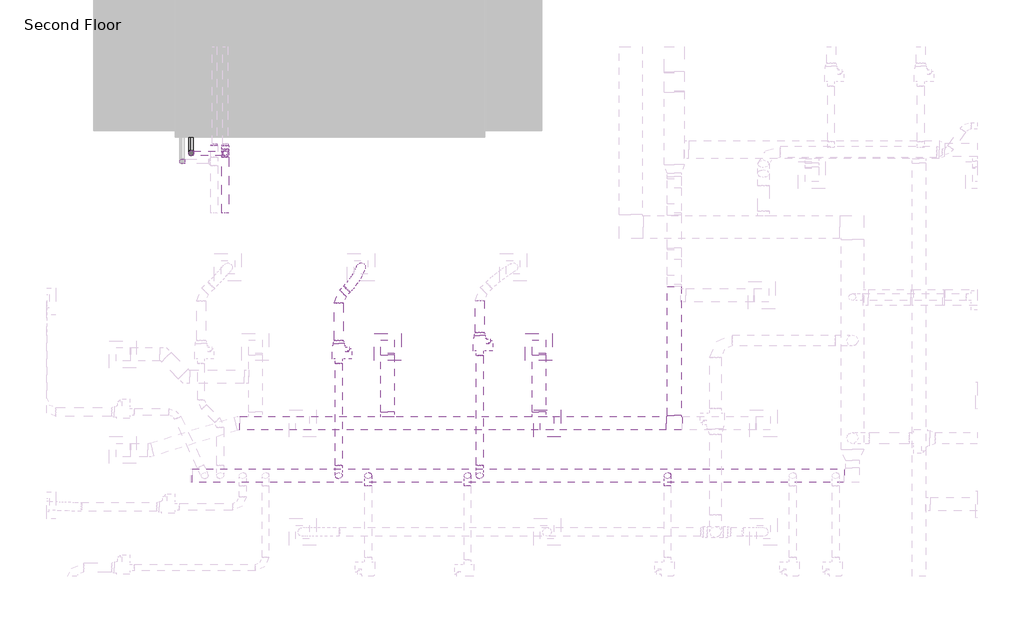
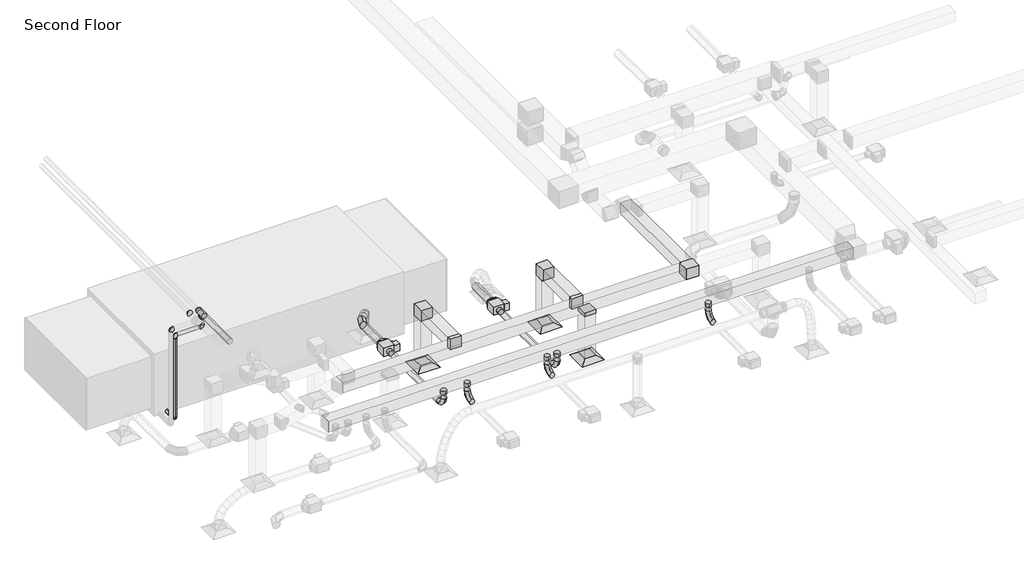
# One storey, part 6 of 44: 19 duct fittings, 19 duct segments, 8 pipe fittings, 6 pipe segments, 3 air terminals, 2 proxies.
"""IFC4 building model written with IfcOpenShell, lengths in millimetres."""

from ifc_helpers import new_model, si_unit, point, frame, frame_2d, origin, place, context, project, spatial, polyline, circle_curve, ellipse_curve, trimmed, segment, composite_curve, outline, extrude, transform, mapped, element, save
from ifc_brep_helpers import plane_surface, cylinder_surface, advanced_brep
from components import m_exhaust_grill_er_600_x_600_face_300_x_300_connection_ff221211, m_vav_unit_single_duct_150_mm_ffdab17b, m_rectangular_elbow_mitered_standard_8eee5933, m_rectangular_takeoff_standard_c00386d1, m_rectangular_tee_standard_bf2a2b7f, m_rectangular_to_round_transition_angle_45_degree_1b7ae117, m_round_elbow_1_5_d_f3829448, m_round_elbow_1_5_d_a5a9c0f7, m_round_elbow_1_5_d_91200b3d, m_round_elbow_1_5_d_fb64139c, m_round_elbow_1_5_d_2256b737, m_round_takeoff_standard_2721f8a4, m_elbow_generic_standard_09f08a26, m_tee_generic_standard_a561f7f4, m_transition_generic_standard_df45198b

model = new_model("IFC4")

# Units and contexts
model_context = context("Model", 3, world=origin())
ifc_project = project(units=[si_unit("LENGTHUNIT", "METRE", prefix="MILLI")], contexts=[model_context])

# Site, building, storey
site = spatial("IfcSite", under=ifc_project)
building = spatial("IfcBuilding", under=site)
storey = spatial("IfcBuildingStorey", under=building, Name="Second Floor", Elevation=4570.0)

# Air terminals
placement = place(None, origin())
m_exhaust_grill_er_600_x_600_face_300_x_300_connection_shape = m_exhaust_grill_er_600_x_600_face_300_x_300_connection_ff221211(model_context)
element("IfcAirTerminal", 1, ObjectType="M_Return Register : RR-600 x 600 Face 300 x 300 Connection", at=placement, inside=storey, context=model_context, shape_type="MappedRepresentation", body=[
    mapped(m_exhaust_grill_er_600_x_600_face_300_x_300_connection_shape, transform((-38342.8263696, 18995.9490649, 7250.0), x_axis=(1.0, 0.0, 0.0), y_axis=(0.0, 1.0, 0.0), z_axis=(0.0, 0.0, 1.0))),
])
element("IfcAirTerminal", 2, ObjectType="M_Return Register : RR-600 x 600 Face 300 x 300 Connection", at=placement, inside=storey, context=model_context, shape_type="MappedRepresentation", body=[
    mapped(m_exhaust_grill_er_600_x_600_face_300_x_300_connection_shape, transform((-34999.1445602, 18995.9490649, 7250.0), x_axis=(1.0, 0.0, 0.0), y_axis=(0.0, 1.0, 0.0), z_axis=(0.0, 0.0, 1.0))),
])
element("IfcAirTerminal", 3, ObjectType="M_Return Register : RR-600 x 600 Face 300 x 300 Connection", at=placement, inside=storey, context=model_context, shape_type="MappedRepresentation", body=[
    mapped(m_exhaust_grill_er_600_x_600_face_300_x_300_connection_shape, transform((-34817.740769, 17305.6323311, 7250.0), x_axis=(1.0, 0.0, 0.0), y_axis=(0.0, 1.0, 0.0), z_axis=(0.0, 0.0, 1.0))),
])

# Proxies
m_vav_unit_single_duct_150_mm_shape = m_vav_unit_single_duct_150_mm_ffdab17b(model_context)
element("IfcBuildingElementProxy", 4, Name="M_VAV Unit - Single Duct : 150 mm", ObjectType="M_VAV Unit - Single Duct : 150 mm", at=placement, inside=storey, context=model_context, shape_type="MappedRepresentation", body=[
    mapped(m_vav_unit_single_duct_150_mm_shape, transform((-39423.0464732, 18731.5745441, 8070.0), x_axis=(0.0, 1.0, 0.0), y_axis=(-1.0, 0.0, 0.0), z_axis=(0.0, 0.0, 1.0))),
])
element("IfcBuildingElementProxy", 5, Name="M_VAV Unit - Single Duct : 150 mm", ObjectType="M_VAV Unit - Single Duct : 150 mm", at=placement, inside=storey, context=model_context, shape_type="MappedRepresentation", body=[
    mapped(m_vav_unit_single_duct_150_mm_shape, transform((-36309.0180147, 18905.4342264, 8070.0), x_axis=(0.0, 1.0, 0.0), y_axis=(-1.0, 0.0, 0.0), z_axis=(0.0, 0.0, 1.0))),
])

# Duct fittings
m_rectangular_elbow_mitered_standard_shape = m_rectangular_elbow_mitered_standard_8eee5933(model_context)
element("IfcDuctFitting", 6, ObjectType="M_Rectangular Elbow - Mitered : Standard", at=placement, inside=storey, context=model_context, shape_type="MappedRepresentation", body=[
    mapped(m_rectangular_elbow_mitered_standard_shape, transform((-38342.8263696, 18995.9490649, 8820.0), x_axis=(0.0, 0.0, 1.0), y_axis=(0.0, -1.0, 0.0), z_axis=(1.0, 0.0, 0.0))),
])
element("IfcDuctFitting", 7, ObjectType="M_Rectangular Elbow - Mitered : Standard", at=placement, inside=storey, context=model_context, shape_type="MappedRepresentation", body=[
    mapped(m_rectangular_elbow_mitered_standard_shape, transform((-34999.1445602, 18995.9490649, 8820.0), x_axis=(0.0, 0.0, 1.0), y_axis=(0.0, -1.0, 0.0), z_axis=(1.0, 0.0, 0.0))),
])
m_rectangular_takeoff_standard_shape = m_rectangular_takeoff_standard_c00386d1(model_context)
element("IfcDuctFitting", 8, ObjectType="M_Rectangular Takeoff : Standard", at=placement, inside=storey, context=model_context, shape_type="MappedRepresentation", body=[
    mapped(m_rectangular_takeoff_standard_shape, transform((-38342.8263696, 17455.6323311, 8820.0), x_axis=(0.0, 1.0, 0.0), y_axis=(1.0, 0.0, 0.0), z_axis=(0.0, 0.0, -1.0))),
])
element("IfcDuctFitting", 9, ObjectType="M_Rectangular Takeoff : Standard", at=placement, inside=storey, context=model_context, shape_type="MappedRepresentation", body=[
    mapped(m_rectangular_takeoff_standard_shape, transform((-34999.1445602, 17455.6323311, 8820.0), x_axis=(0.0, 1.0, 0.0), y_axis=(1.0, 0.0, 0.0), z_axis=(0.0, 0.0, -1.0))),
])
element("IfcDuctFitting", 10, ObjectType="M_Rectangular Takeoff : Standard", at=placement, inside=storey, context=model_context, shape_type="MappedRepresentation", body=[
    mapped(m_rectangular_takeoff_standard_shape, transform((-34817.740769, 17305.6323311, 8670.0), x_axis=(0.0, 0.0, -1.0), y_axis=(1.0, 0.0, 0.0), z_axis=(0.0, -1.0, 0.0))),
])
m_rectangular_tee_standard_shape = m_rectangular_tee_standard_bf2a2b7f(model_context)
element("IfcDuctFitting", 11, ObjectType="M_Rectangular Tee : Standard", at=placement, inside=storey, context=model_context, shape_type="MappedRepresentation", body=[
    mapped(m_rectangular_tee_standard_shape, transform((-32006.4608066, 17305.6323311, 8820.0), x_axis=(-1.0, 0.0, 0.0), y_axis=(0.0, -1.0, 0.0), z_axis=(0.0, 0.0, 1.0))),
])
m_rectangular_to_round_transition_angle_45_degree_shape = m_rectangular_to_round_transition_angle_45_degree_1b7ae117(model_context)
element("IfcDuctFitting", 12, ObjectType="M_Rectangular to Round Transition - Angle : 45 Degree", at=placement, inside=storey, context=model_context, shape_type="MappedRepresentation", body=[
    mapped(m_rectangular_to_round_transition_angle_45_degree_shape, transform((-39423.0464732, 19074.3745441, 8189.05), x_axis=(0.0, 1.0, 0.0), y_axis=(-1.0, 0.0, 0.0), z_axis=(0.0, 0.0, 1.0))),
])
element("IfcDuctFitting", 13, ObjectType="M_Rectangular to Round Transition - Angle : 45 Degree", at=placement, inside=storey, context=model_context, shape_type="MappedRepresentation", body=[
    mapped(m_rectangular_to_round_transition_angle_45_degree_shape, transform((-36309.0180147, 19248.2342264, 8189.05), x_axis=(0.0, 1.0, 0.0), y_axis=(-1.0, 0.0, 0.0), z_axis=(0.0, 0.0, 1.0))),
])
m_round_elbow_1_5_d_shape = m_round_elbow_1_5_d_f3829448(model_context)
element("IfcDuctFitting", 14, ObjectType="M_Round Elbow : 1.5 D", at=placement, inside=storey, context=model_context, shape_type="MappedRepresentation", body=[
    mapped(m_round_elbow_1_5_d_shape, transform((-39423.0464732, 20094.3745428, 8189.1), x_axis=(-0.7071067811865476, -0.7071067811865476, 0.0), y_axis=(0.7071067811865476, -0.7071067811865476, 0.0), z_axis=(0.0, 0.0, 1.0))),
])
m_round_elbow_1_5_d_2_shape = m_round_elbow_1_5_d_a5a9c0f7(model_context)
element("IfcDuctFitting", 15, ObjectType="M_Round Elbow : 1.5 D", at=placement, inside=storey, context=model_context, shape_type="MappedRepresentation", body=[
    mapped(m_round_elbow_1_5_d_2_shape, transform((-39423.8964732, 16146.5905517, 8179.4912584), x_axis=(0.0, 0.0, -1.0), y_axis=(0.0, 1.0, 0.0), z_axis=(1.0, 0.0, 0.0))),
])
m_round_elbow_1_5_d_3_shape = m_round_elbow_1_5_d_91200b3d(model_context)
element("IfcDuctFitting", 16, ObjectType="M_Round Elbow : 1.5 D", at=placement, inside=storey, context=model_context, shape_type="MappedRepresentation", body=[
    mapped(m_round_elbow_1_5_d_3_shape, transform((-36309.8680147, 16146.5905517, 8179.4976873), x_axis=(0.0, 0.0, -1.0), y_axis=(0.0, 1.0, 0.0), z_axis=(1.0, 0.0, 0.0))),
])
m_round_elbow_1_5_d_4_shape = m_round_elbow_1_5_d_fb64139c(model_context)
element("IfcDuctFitting", 17, ObjectType="M_Round Elbow : 1.5 D", at=placement, inside=storey, context=model_context, shape_type="MappedRepresentation", body=[
    mapped(m_round_elbow_1_5_d_4_shape, transform((-38774.2771337, 16146.5905517, 8179.5), x_axis=(0.0, 0.0, -1.0), y_axis=(0.0, -1.0, 0.0), z_axis=(-1.0, 0.0, 0.0))),
])
element("IfcDuctFitting", 18, ObjectType="M_Round Elbow : 1.5 D", at=placement, inside=storey, context=model_context, shape_type="MappedRepresentation", body=[
    mapped(m_round_elbow_1_5_d_4_shape, transform((-32154.7486641, 16146.5905517, 8179.5), x_axis=(0.0, 0.0, -1.0), y_axis=(0.0, -1.0, 0.0), z_axis=(-1.0, 0.0, 0.0))),
])
m_round_elbow_1_5_d_5_shape = m_round_elbow_1_5_d_2256b737(model_context)
element("IfcDuctFitting", 19, ObjectType="M_Round Elbow : 1.5 D", at=placement, inside=storey, context=model_context, shape_type="MappedRepresentation", body=[
    mapped(m_round_elbow_1_5_d_5_shape, transform((-36577.8314374, 16146.5905517, 8179.5), x_axis=(0.0, 0.0, -1.0), y_axis=(0.0, -1.0, 0.0), z_axis=(-1.0, 0.0, 0.0))),
])
m_round_takeoff_standard_shape = m_round_takeoff_standard_2721f8a4(model_context)
element("IfcDuctFitting", 20, ObjectType="M_Round Takeoff : Standard", at=placement, inside=storey, context=model_context, shape_type="MappedRepresentation", body=[
    mapped(m_round_takeoff_standard_shape, transform((-39423.8964732, 16146.5905517, 8620.0), x_axis=(0.0, 0.0, -1.0), y_axis=(-1.0, 0.0, 0.0), z_axis=(0.0, 1.0, 0.0))),
])
element("IfcDuctFitting", 21, ObjectType="M_Round Takeoff : Standard", at=placement, inside=storey, context=model_context, shape_type="MappedRepresentation", body=[
    mapped(m_round_takeoff_standard_shape, transform((-36309.8680147, 16146.5905517, 8620.0), x_axis=(0.0, 0.0, -1.0), y_axis=(-1.0, 0.0, 0.0), z_axis=(0.0, 1.0, 0.0))),
])
element("IfcDuctFitting", 22, ObjectType="M_Round Takeoff : Standard", at=placement, inside=storey, context=model_context, shape_type="MappedRepresentation", body=[
    mapped(m_round_takeoff_standard_shape, transform((-38774.2771337, 16146.5905517, 8620.0), x_axis=(0.0, 0.0, -1.0), y_axis=(1.0, 0.0, 0.0), z_axis=(0.0, -1.0, 0.0))),
])
element("IfcDuctFitting", 23, ObjectType="M_Round Takeoff : Standard", at=placement, inside=storey, context=model_context, shape_type="MappedRepresentation", body=[
    mapped(m_round_takeoff_standard_shape, transform((-36577.8314374, 16146.5905517, 8620.0), x_axis=(0.0, 0.0, -1.0), y_axis=(1.0, 0.0, 0.0), z_axis=(0.0, -1.0, 0.0))),
])
element("IfcDuctFitting", 24, ObjectType="M_Round Takeoff : Standard", at=placement, inside=storey, context=model_context, shape_type="MappedRepresentation", body=[
    mapped(m_round_takeoff_standard_shape, transform((-32154.7486641, 16146.5905517, 8620.0), x_axis=(0.0, 0.0, -1.0), y_axis=(1.0, 0.0, 0.0), z_axis=(0.0, -1.0, 0.0))),
])

# Duct segments
element("IfcDuctSegment", 25, ObjectType="Flex - Round", at=placement, inside=storey, context=model_context, shape_type="AdvancedBrep", body=[
    advanced_brep(
    [(-39313.180738, 20345.5027608, 8189.1), (-39250.0891087, 20266.247154, 8090.4187196), (-39165.2166891, 20210.9418444, 8189.1), (-39228.3083183, 20290.1974511, 8287.7812804), (-39240.7687403, 20425.127459, 8171.4460655), (-39184.7412807, 20338.1040458, 8074.4870189), (-39087.5666118, 20296.3263686, 8170.1690297), (-39143.5940714, 20383.3497818, 8267.1280764), (-39015.9394262, 20814.5089739, 7474.9919754), (-38876.8929832, 20839.2093302, 7482.4738929), (-38851.5905014, 20700.6640201, 7469.6293808), (-38990.6369444, 20675.9636639, 7462.1474633), (-39180.6727259, 20503.8239667, 8123.4657217), (-39135.2934424, 20402.8566294, 8035.0081231), (-39020.3460816, 20384.3525219, 8116.5005097), (-39065.7253651, 20485.3198593, 8204.9581082), (-39129.6921387, 20581.7480035, 8048.720388), (-39091.3150838, 20470.077731, 7970.5291269), (-38965.9119803, 20467.5552692, 8036.6917964), (-39004.2890353, 20579.2255417, 8114.8830575), (-39088.1907968, 20654.6694084, 7952.6373319), (-39054.5409307, 20534.6930611, 7885.3903615), (-38923.0568159, 20542.8554559, 7937.4743982), (-38956.706682, 20662.8318032, 8004.7213685), (-39056.2397157, 20718.4336319, 7841.1118635), (-39026.012089, 20591.62758, 7785.8102436), (-38890.8658987, 20607.0983159, 7825.1117807), (-38921.0935254, 20733.9043677, 7880.4134006), (-39033.6862466, 20769.052063, 7720.0522305), (-39006.0765406, 20636.3704168, 7678.8027509), (-38868.6482036, 20656.9631445, 7705.8544722), (-38896.2579096, 20789.6447908, 7747.1039518), (-39020.2854991, 20802.5744126, 7595.1608889), (-38994.6064674, 20665.06313, 7571.9047714), (-38855.8049468, 20689.0909155, 7586.1587925), (-38881.4839785, 20826.6021982, 7609.4149101)],
    [
        (0, 1, circle_curve(frame((-39239.1987135, 20278.2223026, 8189.1), z_axis=(-0.6639321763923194, -0.7300640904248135, 0.16186565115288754), x_axis=(-0.7398202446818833, 0.6728045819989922, 0.0)), 100.0)),
        (1, 2, circle_curve(frame((-39239.1987135, 20278.2223026, 8189.1), z_axis=(-0.6639321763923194, -0.7300640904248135, 0.16186565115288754), x_axis=(-0.7398202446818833, 0.6728045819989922, 0.0)), 100.0)),
        (2, 3, circle_curve(frame((-39239.1987135, 20278.2223026, 8189.1), z_axis=(-0.6639321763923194, -0.7300640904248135, 0.16186565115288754), x_axis=(-0.7398202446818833, 0.6728045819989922, 0.0)), 100.0)),
        (3, 0, circle_curve(frame((-39239.1987135, 20278.2223026, 8189.1), z_axis=(-0.6639321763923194, -0.7300640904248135, 0.16186565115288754), x_axis=(-0.7398202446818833, 0.6728045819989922, 0.0)), 100.0)),
        (0, 4),
        (4, 5, ellipse_curve(frame((-39164.1676761, 20360.7269138, 8170.8075476), z_axis=(-0.6119201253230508, -0.7308446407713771, 0.302357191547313), x_axis=(-0.3941252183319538, -0.04967413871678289, -0.9177133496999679)), 101.1349227, 100.0)),
        (5, 1),
        (5, 6, ellipse_curve(frame((-39164.1676761, 20360.7269138, 8170.8075476), z_axis=(-0.6119201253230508, -0.7308446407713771, 0.302357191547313), x_axis=(-0.3941252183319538, -0.04967413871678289, -0.9177133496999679)), 101.1349227, 100.0)),
        (6, 2),
        (6, 7, ellipse_curve(frame((-39164.1676761, 20360.7269138, 8170.8075476), z_axis=(-0.6119201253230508, -0.7308446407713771, 0.302357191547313), x_axis=(-0.3941252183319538, -0.04967413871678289, -0.9177133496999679)), 101.1349227, 100.0)),
        (7, 3),
        (7, 4, ellipse_curve(frame((-39164.1676761, 20360.7269138, 8170.8075476), z_axis=(-0.6119201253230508, -0.7308446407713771, 0.302357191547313), x_axis=(-0.3941252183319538, -0.04967413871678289, -0.9177133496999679)), 101.1349227, 100.0)),
        (8, 9, circle_curve(frame((-38933.7649638, 20757.586497, 7472.3106781), z_axis=(0.03596602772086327, 0.09876473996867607, -0.9944606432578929), x_axis=(-0.8217446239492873, 0.569224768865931, 0.026812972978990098)), 100.0)),
        (9, 10, circle_curve(frame((-38933.7649638, 20757.586497, 7472.3106781), z_axis=(0.03596602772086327, 0.09876473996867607, -0.9944606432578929), x_axis=(-0.8217446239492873, 0.569224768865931, 0.026812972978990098)), 100.0)),
        (10, 11, circle_curve(frame((-38933.7649638, 20757.586497, 7472.3106781), z_axis=(0.03596602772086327, 0.09876473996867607, -0.9944606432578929), x_axis=(-0.8217446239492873, 0.569224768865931, 0.026812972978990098)), 100.0)),
        (11, 8, circle_curve(frame((-38933.7649638, 20757.586497, 7472.3106781), z_axis=(0.03596602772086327, 0.09876473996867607, -0.9944606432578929), x_axis=(-0.8217446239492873, 0.569224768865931, 0.026812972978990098)), 100.0)),
        (4, 12),
        (12, 13, ellipse_curve(frame((-39100.5094038, 20444.0882443, 8119.9831157), z_axis=(-0.48989161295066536, -0.6885883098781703, 0.5346516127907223), x_axis=(-0.512108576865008, -0.26901508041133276, -0.8157056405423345)), 100.6844977, 100.0)),
        (13, 5),
        (13, 14, ellipse_curve(frame((-39100.5094038, 20444.0882443, 8119.9831157), z_axis=(-0.48989161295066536, -0.6885883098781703, 0.5346516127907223), x_axis=(-0.512108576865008, -0.26901508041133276, -0.8157056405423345)), 100.6844977, 100.0)),
        (14, 6),
        (14, 15, ellipse_curve(frame((-39100.5094038, 20444.0882443, 8119.9831157), z_axis=(-0.48989161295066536, -0.6885883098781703, 0.5346516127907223), x_axis=(-0.512108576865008, -0.26901508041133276, -0.8157056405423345)), 100.6844977, 100.0)),
        (15, 7),
        (15, 12, ellipse_curve(frame((-39100.5094038, 20444.0882443, 8119.9831157), z_axis=(-0.48989161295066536, -0.6885883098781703, 0.5346516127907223), x_axis=(-0.512108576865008, -0.26901508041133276, -0.8157056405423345)), 100.6844977, 100.0)),
        (12, 16),
        (16, 17, ellipse_curve(frame((-39047.8020595, 20524.6516364, 8042.7060922), z_axis=(-0.3777108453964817, -0.614671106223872, 0.6924694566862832), x_axis=(-0.5587267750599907, -0.44506026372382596, -0.699818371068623)), 100.4159385, 100.0)),
        (17, 13),
        (17, 18, ellipse_curve(frame((-39047.8020595, 20524.6516364, 8042.7060922), z_axis=(-0.3777108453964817, -0.614671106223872, 0.6924694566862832), x_axis=(-0.5587267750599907, -0.44506026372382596, -0.699818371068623)), 100.4159385, 100.0)),
        (18, 14),
        (18, 19, ellipse_curve(frame((-39047.8020595, 20524.6516364, 8042.7060922), z_axis=(-0.3777108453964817, -0.614671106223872, 0.6924694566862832), x_axis=(-0.5587267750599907, -0.44506026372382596, -0.699818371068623)), 100.4159385, 100.0)),
        (19, 15),
        (19, 16, ellipse_curve(frame((-39047.8020595, 20524.6516364, 8042.7060922), z_axis=(-0.3777108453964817, -0.614671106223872, 0.6924694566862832), x_axis=(-0.5587267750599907, -0.44506026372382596, -0.699818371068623)), 100.4159385, 100.0)),
        (16, 20),
        (20, 21, ellipse_curve(frame((-39005.6238063, 20598.7624321, 7945.055865), z_axis=(-0.28417322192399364, -0.5281938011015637, 0.8001605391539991), x_axis=(-0.5524411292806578, -0.5918964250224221, -0.5869134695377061)), 100.2901701, 100.0)),
        (21, 17),
        (21, 22, ellipse_curve(frame((-39005.6238063, 20598.7624321, 7945.055865), z_axis=(-0.28417322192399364, -0.5281938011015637, 0.8001605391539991), x_axis=(-0.5524411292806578, -0.5918964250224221, -0.5869134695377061)), 100.2901701, 100.0)),
        (22, 18),
        (22, 23, ellipse_curve(frame((-39005.6238063, 20598.7624321, 7945.055865), z_axis=(-0.28417322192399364, -0.5281938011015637, 0.8001605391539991), x_axis=(-0.5524411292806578, -0.5918964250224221, -0.5869134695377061)), 100.2901701, 100.0)),
        (23, 19),
        (23, 20, ellipse_curve(frame((-39005.6238063, 20598.7624321, 7945.055865), z_axis=(-0.28417322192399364, -0.5281938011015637, 0.8001605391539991), x_axis=(-0.5524411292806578, -0.5918964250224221, -0.5869134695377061)), 100.2901701, 100.0)),
        (20, 24),
        (24, 25, ellipse_curve(frame((-38973.5528072, 20662.7659739, 7833.1118221), z_axis=(-0.2058906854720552, -0.43200893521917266, 0.8780531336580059), x_axis=(-0.5096032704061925, -0.7186741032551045, -0.4730877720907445)), 100.2501885, 100.0)),
        (25, 21),
        (25, 26, ellipse_curve(frame((-38973.5528072, 20662.7659739, 7833.1118221), z_axis=(-0.2058906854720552, -0.43200893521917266, 0.8780531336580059), x_axis=(-0.5096032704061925, -0.7186741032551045, -0.4730877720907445)), 100.2501885, 100.0)),
        (26, 22),
        (26, 27, ellipse_curve(frame((-38973.5528072, 20662.7659739, 7833.1118221), z_axis=(-0.2058906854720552, -0.43200893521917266, 0.8780531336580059), x_axis=(-0.5096032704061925, -0.7186741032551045, -0.4730877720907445)), 100.2501885, 100.0)),
        (27, 23),
        (27, 24, ellipse_curve(frame((-38973.5528072, 20662.7659739, 7833.1118221), z_axis=(-0.2058906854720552, -0.43200893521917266, 0.8780531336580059), x_axis=(-0.5096032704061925, -0.7186741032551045, -0.4730877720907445)), 100.2501885, 100.0)),
        (24, 28),
        (28, 29, ellipse_curve(frame((-38951.1672251, 20713.0076038, 7712.9533514), z_axis=(-0.1366140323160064, -0.31990325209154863, 0.9375492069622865), x_axis=(-0.44705025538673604, -0.8246610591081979, -0.3465259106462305)), 100.2762149, 100.0)),
        (29, 25),
        (29, 30, ellipse_curve(frame((-38951.1672251, 20713.0076038, 7712.9533514), z_axis=(-0.1366140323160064, -0.31990325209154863, 0.9375492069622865), x_axis=(-0.44705025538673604, -0.8246610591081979, -0.3465259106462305)), 100.2762149, 100.0)),
        (30, 26),
        (30, 31, ellipse_curve(frame((-38951.1672251, 20713.0076038, 7712.9533514), z_axis=(-0.1366140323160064, -0.31990325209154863, 0.9375492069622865), x_axis=(-0.44705025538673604, -0.8246610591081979, -0.3465259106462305)), 100.2762149, 100.0)),
        (31, 27),
        (31, 28, ellipse_curve(frame((-38951.1672251, 20713.0076038, 7712.9533514), z_axis=(-0.1366140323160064, -0.31990325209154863, 0.9375492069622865), x_axis=(-0.44705025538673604, -0.8246610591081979, -0.3465259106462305)), 100.2762149, 100.0)),
        (28, 32),
        (32, 33, ellipse_curve(frame((-38938.045223, 20745.8326641, 7590.6598407), z_axis=(-0.06979314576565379, -0.17900399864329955, 0.981369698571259), x_axis=(-0.38144849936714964, -0.9042180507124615, -0.19205925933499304)), 100.3892082, 100.0)),
        (33, 29),
        (33, 34, ellipse_curve(frame((-38938.045223, 20745.8326641, 7590.6598407), z_axis=(-0.06979314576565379, -0.17900399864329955, 0.981369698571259), x_axis=(-0.38144849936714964, -0.9042180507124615, -0.19205925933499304)), 100.3892082, 100.0)),
        (34, 30),
        (34, 35, ellipse_curve(frame((-38938.045223, 20745.8326641, 7590.6598407), z_axis=(-0.06979314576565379, -0.17900399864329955, 0.981369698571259), x_axis=(-0.38144849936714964, -0.9042180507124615, -0.19205925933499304)), 100.3892082, 100.0)),
        (35, 31),
        (35, 32, ellipse_curve(frame((-38938.045223, 20745.8326641, 7590.6598407), z_axis=(-0.06979314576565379, -0.17900399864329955, 0.981369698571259), x_axis=(-0.38144849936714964, -0.9042180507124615, -0.19205925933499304)), 100.3892082, 100.0)),
        (32, 8),
        (11, 33),
        (10, 34),
        (9, 35),
    ],
    [
        plane_surface(frame((-39239.1987135, 20299.8680916, 8286.7291955), z_axis=(-0.6639321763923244, -0.73006409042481, 0.1618656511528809), x_axis=(0.7477927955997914, -0.6481916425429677, 0.14371335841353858))),
        cylinder_surface(frame((-39239.1987135, 20278.2223026, 8189.1), z_axis=(-0.6639321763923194, -0.7300640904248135, 0.16186565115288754), x_axis=(-0.7398202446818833, 0.6728045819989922, 0.0)), 100.0),
        plane_surface(frame((-38933.7649638, 20857.0969433, 7482.1935462), z_axis=(0.03596602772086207, 0.09876473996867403, -0.9944606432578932), x_axis=(0.9993530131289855, -0.0035544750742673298, 0.035789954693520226))),
        cylinder_surface(frame((-39164.1676761, 20360.7269138, 8170.8075476), z_axis=(-0.5461743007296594, -0.7152223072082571, 0.436062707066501), x_axis=(-0.7875557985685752, 0.6157917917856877, 0.02358671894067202)), 100.0),
        cylinder_surface(frame((-39100.5094038, 20444.0882443, 8119.9831157), z_axis=(-0.4269479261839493, -0.652591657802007, 0.625970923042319), x_axis=(-0.8126376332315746, 0.5805369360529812, 0.05096020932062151)), 100.0),
        cylinder_surface(frame((-39047.8020595, 20524.6516364, 8042.7060922), z_axis=(-0.3253446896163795, -0.5716584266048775, 0.7532313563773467), x_axis=(-0.8236734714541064, 0.5625776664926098, 0.07119256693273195)), 100.0),
        cylinder_surface(frame((-39005.6238063, 20598.7624321, 7945.055865), z_axis=(-0.24135735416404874, -0.48167272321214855, 0.8424595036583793), x_axis=(-0.8271509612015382, 0.556114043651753, 0.08098430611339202)), 100.0),
        cylinder_surface(frame((-38973.5528072, 20662.7659739, 7833.1118221), z_axis=(-0.16939635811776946, -0.38018886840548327, 0.9092641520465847), x_axis=(-0.8266712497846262, 0.5571205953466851, 0.0789385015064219)), 100.0),
        cylinder_surface(frame((-38951.1672251, 20713.0076038, 7712.9533514), z_axis=(-0.10307908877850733, -0.2578552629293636, 0.9606692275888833), x_axis=(-0.8242889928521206, 0.562699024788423, 0.06258964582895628)), 100.0),
        cylinder_surface(frame((-38938.045223, 20745.8326641, 7590.6598407), z_axis=(-0.03596602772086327, -0.09876473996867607, 0.9944606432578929), x_axis=(-0.8217446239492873, 0.569224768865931, 0.026812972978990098)), 100.0),
    ],
    [
        (0, [[1, 2, 3, 4]]),
        (1, [[-1, 5, 6, 7]]),
        (1, [[-2, -7, 8, 9]]),
        (1, [[-3, -9, 10, 11]]),
        (1, [[-4, -11, 12, -5]]),
        (2, [[13, 14, 15, 16]]),
        (3, [[-6, 17, 18, 19]]),
        (3, [[-8, -19, 20, 21]]),
        (3, [[-10, -21, 22, 23]]),
        (3, [[-12, -23, 24, -17]]),
        (4, [[-18, 25, 26, 27]]),
        (4, [[-20, -27, 28, 29]]),
        (4, [[-22, -29, 30, 31]]),
        (4, [[-24, -31, 32, -25]]),
        (5, [[-26, 33, 34, 35]]),
        (5, [[-28, -35, 36, 37]]),
        (5, [[-30, -37, 38, 39]]),
        (5, [[-32, -39, 40, -33]]),
        (6, [[-34, 41, 42, 43]]),
        (6, [[-36, -43, 44, 45]]),
        (6, [[-38, -45, 46, 47]]),
        (6, [[-40, -47, 48, -41]]),
        (7, [[-42, 49, 50, 51]]),
        (7, [[-44, -51, 52, 53]]),
        (7, [[-46, -53, 54, 55]]),
        (7, [[-48, -55, 56, -49]]),
        (8, [[-50, 57, 58, 59]]),
        (8, [[-52, -59, 60, 61]]),
        (8, [[-54, -61, 62, 63]]),
        (8, [[-56, -63, 64, -57]]),
        (9, [[-58, 65, -16, 66]]),
        (9, [[-60, -66, -15, 67]]),
        (9, [[-62, -67, -14, 68]]),
        (9, [[-64, -68, -13, -65]]),
    ],
),
])
element("IfcDuctSegment", 26, ObjectType="Mitered Elbows / Taps", at=placement, inside=storey, context=model_context, shape_type="SweptSolid", body=[
    extrude(outline(polyline([(-42668.6463278, 15996.5905517), (-42668.6463278, 16296.5905517), (-28243.6463278, 16296.5905517), (-28243.6463278, 15996.5905517), (-42668.6463278, 15996.5905517)])), frame((0.0, 0.0, 8620.0), z_axis=(0.0, 0.0, 1.0), x_axis=(1.0, 0.0, 0.0)), (0.0, 0.0, 1.0), 300.0),
])
element("IfcDuctSegment", 27, ObjectType="Mitered Elbows / Taps", at=placement, inside=storey, context=model_context, shape_type="SweptSolid", body=[
    extrude(outline(polyline([(-41609.1842013, 17155.6323311), (-41609.1842013, 17455.6323311), (-32181.4608066, 17455.6323311), (-32181.4608066, 17155.6323311), (-41609.1842013, 17155.6323311)])), frame((0.0, 0.0, 8670.0), z_axis=(0.0, 0.0, 1.0), x_axis=(1.0, 0.0, 0.0)), (0.0, 0.0, 1.0), 300.0),
])
element("IfcDuctSegment", 28, ObjectType="Mitered Elbows / Taps", at=placement, inside=storey, context=model_context, shape_type="SweptSolid", body=[
    extrude(outline(polyline([(-38192.8263696, 17555.6323311), (-38492.8263696, 17555.6323311), (-38492.8263696, 18820.9490649), (-38192.8263696, 18820.9490649), (-38192.8263696, 17555.6323311)])), frame((0.0, 0.0, 8670.0), z_axis=(0.0, 0.0, 1.0), x_axis=(1.0, 0.0, 0.0)), (0.0, 0.0, 1.0), 300.0),
])
element("IfcDuctSegment", 29, ObjectType="Mitered Elbows / Taps", at=placement, inside=storey, context=model_context, shape_type="SweptSolid", body=[
    extrude(outline(polyline([(-38192.8263696, 18845.9490649), (-38492.8263696, 18845.9490649), (-38492.8263696, 19145.9490649), (-38192.8263696, 19145.9490649), (-38192.8263696, 18845.9490649)])), frame((0.0, 0.0, 7351.6), z_axis=(0.0, 0.0, 1.0), x_axis=(1.0, 0.0, 0.0)), (0.0, 0.0, 1.0), 1293.4),
])
element("IfcDuctSegment", 30, ObjectType="Mitered Elbows / Taps", at=placement, inside=storey, context=model_context, shape_type="SweptSolid", body=[
    extrude(outline(polyline([(-34849.1445602, 17555.6323311), (-35149.1445602, 17555.6323311), (-35149.1445602, 18820.9490649), (-34849.1445602, 18820.9490649), (-34849.1445602, 17555.6323311)])), frame((0.0, 0.0, 8670.0), z_axis=(0.0, 0.0, 1.0), x_axis=(1.0, 0.0, 0.0)), (0.0, 0.0, 1.0), 300.0),
])
element("IfcDuctSegment", 31, ObjectType="Mitered Elbows / Taps", at=placement, inside=storey, context=model_context, shape_type="SweptSolid", body=[
    extrude(outline(polyline([(-34849.1445602, 18845.9490649), (-35149.1445602, 18845.9490649), (-35149.1445602, 19145.9490649), (-34849.1445602, 19145.9490649), (-34849.1445602, 18845.9490649)])), frame((0.0, 0.0, 7351.6), z_axis=(0.0, 0.0, 1.0), x_axis=(1.0, 0.0, 0.0)), (0.0, 0.0, 1.0), 1293.4),
])
element("IfcDuctSegment", 32, ObjectType="Mitered Elbows / Taps", at=placement, inside=storey, context=model_context, shape_type="SweptSolid", body=[
    extrude(outline(polyline([(-34667.740769, 17455.6323311), (-34667.740769, 17155.6323311), (-34967.740769, 17155.6323311), (-34967.740769, 17455.6323311), (-34667.740769, 17455.6323311)])), frame((0.0, 0.0, 7351.6), z_axis=(0.0, 0.0, 1.0), x_axis=(1.0, 0.0, 0.0)), (0.0, 0.0, 1.0), 1218.4),
])
element("IfcDuctSegment", 33, ObjectType="Mitered Elbows / Taps", at=placement, inside=storey, context=model_context, shape_type="SweptSolid", body=[
    extrude(outline(polyline([(-31856.4608066, 17480.6323311), (-32156.4608066, 17480.6323311), (-32156.4608066, 20333.5002968), (-31856.4608066, 20333.5002968), (-31856.4608066, 17480.6323311)])), frame((0.0, 0.0, 8670.0), z_axis=(0.0, 0.0, 1.0), x_axis=(1.0, 0.0, 0.0)), (0.0, 0.0, 1.0), 300.0),
])
element("IfcDuctSegment", 34, ObjectType="Taps", at=placement, inside=storey, context=model_context, shape_type="SweptSolid", body=[
    extrude(outline(composite_curve([segment(trimmed(circle_curve(frame_2d((8189.1, -39423.0464732)), 100.0), [point((8189.1, -39323.0464732))], [point((8289.1, -39423.0464732))], False, "CARTESIAN"), True, "CONTINUOUS"), segment(trimmed(circle_curve(frame_2d((8189.1, -39423.0464732)), 100.0), [point((8289.1, -39423.0464732))], [point((8189.1, -39523.0464732))], False, "CARTESIAN"), True, "CONTINUOUS"), segment(trimmed(circle_curve(frame_2d((8189.1, -39423.0464732)), 100.0), [point((8189.1, -39523.0464732))], [point((8089.1, -39423.0464732))], False, "CARTESIAN"), True, "CONTINUOUS"), segment(trimmed(circle_curve(frame_2d((8189.1, -39423.0464732)), 100.0), [point((8089.1, -39423.0464732))], [point((8189.1, -39323.0464732))], False, "CARTESIAN"), True, "CONTINUOUS")], self_intersect=False)), frame((0.0, 19134.7298831, 0.0), z_axis=(0.0, 1.0, 0.0), x_axis=(0.0, 0.0, 1.0)), (0.0, 0.0, 1.0), 835.380591),
])
element("IfcDuctSegment", 35, ObjectType="Taps", at=placement, inside=storey, context=model_context, shape_type="SweptSolid", body=[
    extrude(outline(composite_curve([segment(trimmed(circle_curve(frame_2d((0.0, 100.0)), 100.0), [point((100.0, 100.0))], [point((0.0, 0.0))], False, "CARTESIAN"), True, "CONTINUOUS"), segment(trimmed(circle_curve(frame_2d((0.0, 100.0)), 100.0), [point((0.0, 0.0))], [point((-100.0, 100.0))], False, "CARTESIAN"), True, "CONTINUOUS"), segment(trimmed(circle_curve(frame_2d((0.0, 100.0)), 100.0), [point((-100.0, 100.0))], [point((0.0, 200.0))], False, "CARTESIAN"), True, "CONTINUOUS"), segment(trimmed(circle_curve(frame_2d((0.0, 100.0)), 100.0), [point((0.0, 200.0))], [point((100.0, 100.0))], False, "CARTESIAN"), True, "CONTINUOUS")], self_intersect=False)), frame((-39335.1785076, 20182.2425085, 8289.1), z_axis=(0.7071067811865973, 0.7071067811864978, 0.0), x_axis=(0.7071067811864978, -0.7071067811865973, 0.0)), (0.0, 0.0, 1.0), 135.7359265),
])
element("IfcDuctSegment", 36, ObjectType="Taps", at=placement, inside=storey, context=model_context, shape_type="SweptSolid", body=[
    extrude(outline(composite_curve([segment(trimmed(circle_curve(frame_2d((8189.1, -36309.0180147)), 100.0), [point((8189.1, -36209.0180147))], [point((8289.1, -36309.0180147))], False, "CARTESIAN"), True, "CONTINUOUS"), segment(trimmed(circle_curve(frame_2d((8189.1, -36309.0180147)), 100.0), [point((8289.1, -36309.0180147))], [point((8189.1, -36409.0180147))], False, "CARTESIAN"), True, "CONTINUOUS"), segment(trimmed(circle_curve(frame_2d((8189.1, -36309.0180147)), 100.0), [point((8189.1, -36409.0180147))], [point((8089.1, -36309.0180147))], False, "CARTESIAN"), True, "CONTINUOUS"), segment(trimmed(circle_curve(frame_2d((8189.1, -36309.0180147)), 100.0), [point((8089.1, -36309.0180147))], [point((8189.1, -36209.0180147))], False, "CARTESIAN"), True, "CONTINUOUS")], self_intersect=False)), frame((0.0, 19308.5895655, 0.0), z_axis=(0.0, 1.0, 0.0), x_axis=(0.0, 0.0, 1.0)), (0.0, 0.0, 1.0), 715.3805908),
])
element("IfcDuctSegment", 37, ObjectType="Taps", at=placement, inside=storey, context=model_context, shape_type="SweptSolid", body=[
    extrude(outline(composite_curve([segment(trimmed(circle_curve(frame_2d((0.0, -75.0)), 75.0), [point((0.0, 0.0))], [point((75.0, -75.0))], False, "CARTESIAN"), True, "CONTINUOUS"), segment(trimmed(circle_curve(frame_2d((0.0, -75.0)), 75.0), [point((75.0, -75.0))], [point((0.0, -150.0))], False, "CARTESIAN"), True, "CONTINUOUS"), segment(trimmed(circle_curve(frame_2d((0.0, -75.0)), 75.0), [point((0.0, -150.0))], [point((-75.0, -75.0))], False, "CARTESIAN"), True, "CONTINUOUS"), segment(trimmed(circle_curve(frame_2d((0.0, -75.0)), 75.0), [point((-75.0, -75.0))], [point((0.0, 0.0))], False, "CARTESIAN"), True, "CONTINUOUS")], self_intersect=False)), frame((-39498.8964732, 16371.5936087, 8179.4943155), z_axis=(0.0, 0.9999999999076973, 1.3586956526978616e-05), x_axis=(0.0, 1.3586956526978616e-05, -0.9999999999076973)), (0.0, 0.0, 1.0), 2258.3809355),
])
element("IfcDuctSegment", 38, ObjectType="Taps", at=placement, inside=storey, context=model_context, shape_type="SweptSolid", body=[
    extrude(outline(composite_curve([segment(trimmed(circle_curve(frame_2d((-39423.8964732, 16146.5905517)), 75.0), [point((-39348.8964732, 16146.5905517))], [point((-39423.8964732, 16071.5905517))], False, "CARTESIAN"), True, "CONTINUOUS"), segment(trimmed(circle_curve(frame_2d((-39423.8964732, 16146.5905517)), 75.0), [point((-39423.8964732, 16071.5905517))], [point((-39498.8964732, 16146.5905517))], False, "CARTESIAN"), True, "CONTINUOUS"), segment(trimmed(circle_curve(frame_2d((-39423.8964732, 16146.5905517)), 75.0), [point((-39498.8964732, 16146.5905517))], [point((-39423.8964732, 16221.5905517))], False, "CARTESIAN"), True, "CONTINUOUS"), segment(trimmed(circle_curve(frame_2d((-39423.8964732, 16146.5905517)), 75.0), [point((-39423.8964732, 16221.5905517))], [point((-39348.8964732, 16146.5905517))], False, "CARTESIAN"), True, "CONTINUOUS")], self_intersect=False)), frame((0.0, 0.0, 8404.4943155), z_axis=(0.0, 0.0, 1.0), x_axis=(1.0, 0.0, 0.0)), (0.0, 0.0, 1.0), 115.5056845),
])
element("IfcDuctSegment", 39, ObjectType="Taps", at=placement, inside=storey, context=model_context, shape_type="SweptSolid", body=[
    extrude(outline(composite_curve([segment(trimmed(circle_curve(frame_2d((0.0, -75.0)), 75.0), [point((0.0, 0.0))], [point((75.0, -75.0))], False, "CARTESIAN"), True, "CONTINUOUS"), segment(trimmed(circle_curve(frame_2d((0.0, -75.0)), 75.0), [point((75.0, -75.0))], [point((0.0, -150.0))], False, "CARTESIAN"), True, "CONTINUOUS"), segment(trimmed(circle_curve(frame_2d((0.0, -75.0)), 75.0), [point((0.0, -150.0))], [point((-75.0, -75.0))], False, "CARTESIAN"), True, "CONTINUOUS"), segment(trimmed(circle_curve(frame_2d((0.0, -75.0)), 75.0), [point((-75.0, -75.0))], [point((0.0, 0.0))], False, "CARTESIAN"), True, "CONTINUOUS")], self_intersect=False)), frame((-36384.8680147, 16371.5928643, 8179.5), z_axis=(0.0, 0.9999999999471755, 1.0278575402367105e-05), x_axis=(0.0, 1.0278575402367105e-05, -0.9999999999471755)), (0.0, 0.0, 1.0), 2432.2413622),
])
element("IfcDuctSegment", 40, ObjectType="Taps", at=placement, inside=storey, context=model_context, shape_type="SweptSolid", body=[
    extrude(outline(composite_curve([segment(trimmed(circle_curve(frame_2d((-36309.8680147, 16146.5905517)), 75.0), [point((-36234.8680147, 16146.5905517))], [point((-36309.8680147, 16071.5905517))], False, "CARTESIAN"), True, "CONTINUOUS"), segment(trimmed(circle_curve(frame_2d((-36309.8680147, 16146.5905517)), 75.0), [point((-36309.8680147, 16071.5905517))], [point((-36384.8680147, 16146.5905517))], False, "CARTESIAN"), True, "CONTINUOUS"), segment(trimmed(circle_curve(frame_2d((-36309.8680147, 16146.5905517)), 75.0), [point((-36384.8680147, 16146.5905517))], [point((-36309.8680147, 16221.5905517))], False, "CARTESIAN"), True, "CONTINUOUS"), segment(trimmed(circle_curve(frame_2d((-36309.8680147, 16146.5905517)), 75.0), [point((-36309.8680147, 16221.5905517))], [point((-36234.8680147, 16146.5905517))], False, "CARTESIAN"), True, "CONTINUOUS")], self_intersect=False)), frame((0.0, 0.0, 8404.5), z_axis=(0.0, 0.0, 1.0), x_axis=(1.0, 0.0, 0.0)), (0.0, 0.0, 1.0), 115.5),
])
element("IfcDuctSegment", 41, ObjectType="Taps", at=placement, inside=storey, context=model_context, shape_type="SweptSolid", body=[
    extrude(outline(composite_curve([segment(trimmed(circle_curve(frame_2d((-38774.2771337, 16146.5905517)), 75.0), [point((-38849.2771337, 16146.5905517))], [point((-38774.2771337, 16221.5905517))], False, "CARTESIAN"), True, "CONTINUOUS"), segment(trimmed(circle_curve(frame_2d((-38774.2771337, 16146.5905517)), 75.0), [point((-38774.2771337, 16221.5905517))], [point((-38699.2771337, 16146.5905517))], False, "CARTESIAN"), True, "CONTINUOUS"), segment(trimmed(circle_curve(frame_2d((-38774.2771337, 16146.5905517)), 75.0), [point((-38699.2771337, 16146.5905517))], [point((-38774.2771337, 16071.5905517))], False, "CARTESIAN"), True, "CONTINUOUS"), segment(trimmed(circle_curve(frame_2d((-38774.2771337, 16146.5905517)), 75.0), [point((-38774.2771337, 16071.5905517))], [point((-38849.2771337, 16146.5905517))], False, "CARTESIAN"), True, "CONTINUOUS")], self_intersect=False)), frame((0.0, 0.0, 8404.5031071), z_axis=(0.0, 0.0, 1.0), x_axis=(1.0, 0.0, 0.0)), (0.0, 0.0, 1.0), 115.4968929),
])
element("IfcDuctSegment", 42, ObjectType="Taps", at=placement, inside=storey, context=model_context, shape_type="SweptSolid", body=[
    extrude(outline(composite_curve([segment(trimmed(circle_curve(frame_2d((-36577.8314374, 16146.5905517)), 75.0), [point((-36652.8314374, 16146.5905517))], [point((-36577.8314374, 16221.5905517))], False, "CARTESIAN"), True, "CONTINUOUS"), segment(trimmed(circle_curve(frame_2d((-36577.8314374, 16146.5905517)), 75.0), [point((-36577.8314374, 16221.5905517))], [point((-36502.8314374, 16146.5905517))], False, "CARTESIAN"), True, "CONTINUOUS"), segment(trimmed(circle_curve(frame_2d((-36577.8314374, 16146.5905517)), 75.0), [point((-36502.8314374, 16146.5905517))], [point((-36577.8314374, 16071.5905517))], False, "CARTESIAN"), True, "CONTINUOUS"), segment(trimmed(circle_curve(frame_2d((-36577.8314374, 16146.5905517)), 75.0), [point((-36577.8314374, 16071.5905517))], [point((-36652.8314374, 16146.5905517))], False, "CARTESIAN"), True, "CONTINUOUS")], self_intersect=False)), frame((0.0, 0.0, 8404.5030262), z_axis=(0.0, 0.0, 1.0), x_axis=(1.0, 0.0, 0.0)), (0.0, 0.0, 1.0), 115.4969738),
])
element("IfcDuctSegment", 43, ObjectType="Taps", at=placement, inside=storey, context=model_context, shape_type="SweptSolid", body=[
    extrude(outline(composite_curve([segment(trimmed(circle_curve(frame_2d((-32154.7486641, 16146.5905517)), 75.0), [point((-32229.7486641, 16146.5905517))], [point((-32154.7486641, 16221.5905517))], False, "CARTESIAN"), True, "CONTINUOUS"), segment(trimmed(circle_curve(frame_2d((-32154.7486641, 16146.5905517)), 75.0), [point((-32154.7486641, 16221.5905517))], [point((-32079.7486641, 16146.5905517))], False, "CARTESIAN"), True, "CONTINUOUS"), segment(trimmed(circle_curve(frame_2d((-32154.7486641, 16146.5905517)), 75.0), [point((-32079.7486641, 16146.5905517))], [point((-32154.7486641, 16071.5905517))], False, "CARTESIAN"), True, "CONTINUOUS"), segment(trimmed(circle_curve(frame_2d((-32154.7486641, 16146.5905517)), 75.0), [point((-32154.7486641, 16071.5905517))], [point((-32229.7486641, 16146.5905517))], False, "CARTESIAN"), True, "CONTINUOUS")], self_intersect=False)), frame((0.0, 0.0, 8404.5031071), z_axis=(0.0, 0.0, 1.0), x_axis=(1.0, 0.0, 0.0)), (0.0, 0.0, 1.0), 115.4968929),
])

# Pipe fittings
m_elbow_generic_standard_shape = m_elbow_generic_standard_09f08a26(model_context)
element("IfcPipeFitting", 44, ObjectType="M_Elbow - Generic : Standard", at=placement, inside=storey, context=model_context, shape_type="MappedRepresentation", body=[
    mapped(m_elbow_generic_standard_shape, transform((-42892.5789987, 23100.0574771, 7380.0), x_axis=(0.0, 0.0, 1.0), y_axis=(1.0, 0.0, 0.0), z_axis=(0.0, 1.0, 0.0))),
])
element("IfcPipeFitting", 45, ObjectType="M_Elbow - Generic : Standard", at=placement, inside=storey, context=model_context, shape_type="MappedRepresentation", body=[
    mapped(m_elbow_generic_standard_shape, transform((-42692.2289987, 23280.0574771, 4608.1), x_axis=(0.0, -1.0, 0.0), y_axis=(0.0, 0.0, 1.0), z_axis=(-1.0, 0.0, 0.0))),
])
element("IfcPipeFitting", 46, ObjectType="M_Elbow - Generic : Standard", at=placement, inside=storey, context=model_context, shape_type="MappedRepresentation", body=[
    mapped(m_elbow_generic_standard_shape, transform((-41933.6892157, 23280.0574771, 7020.0), x_axis=(0.0, 0.0, -1.0), y_axis=(-1.0, 0.0, 0.0), z_axis=(0.0, 1.0, 0.0))),
])
element("IfcPipeFitting", 47, ObjectType="M_Elbow - Generic : Standard", at=placement, inside=storey, context=model_context, shape_type="MappedRepresentation", body=[
    mapped(m_elbow_generic_standard_shape, transform((-42692.2289987, 23280.0574771, 7020.0), x_axis=(0.0, 0.0, 1.0), y_axis=(1.0, 0.0, 0.0), z_axis=(0.0, 1.0, 0.0))),
])
m_tee_generic_standard_shape = m_tee_generic_standard_a561f7f4(model_context)
element("IfcPipeFitting", 48, ObjectType="M_Tee - Generic : Standard", at=placement, inside=storey, context=model_context, shape_type="MappedRepresentation", body=[
    mapped(m_tee_generic_standard_shape, transform((-41933.6892157, 23280.0574771, 7380.0), x_axis=(0.0, -1.0, 0.0), y_axis=(0.0, 0.0, 1.0), z_axis=(-1.0, 0.0, 0.0))),
])
m_transition_generic_standard_shape = m_transition_generic_standard_df45198b(model_context)
element("IfcPipeFitting", 49, ObjectType="M_Transition - Generic : Standard", at=placement, inside=storey, context=model_context, shape_type="MappedRepresentation", body=[
    mapped(m_transition_generic_standard_shape, transform((-42173.6892157, 23450.5449771, 7380.0), x_axis=(0.0, 1.0, 0.0), y_axis=(-1.0, 0.0, 0.0), z_axis=(0.0, 0.0, 1.0))),
])
element("IfcPipeFitting", 50, ObjectType="M_Transition - Generic : Standard", at=placement, inside=storey, context=model_context, shape_type="MappedRepresentation", body=[
    mapped(m_transition_generic_standard_shape, transform((-41933.6892157, 23449.0755539, 7380.0), x_axis=(0.0, 1.0, 0.0), y_axis=(-1.0, 0.0, 0.0), z_axis=(0.0, 0.0, 1.0))),
])
element("IfcPipeFitting", 51, ObjectType="M_Transition - Generic : Standard", at=placement, inside=storey, context=model_context, shape_type="MappedRepresentation", body=[
    mapped(m_transition_generic_standard_shape, transform((-41933.6892157, 23280.0574771, 7289.5125), x_axis=(0.0, 0.0, -1.0), y_axis=(0.0, -1.0, 0.0), z_axis=(-1.0, 0.0, 0.0))),
])

# Pipe segments
element("IfcPipeSegment", 52, ObjectType="Standard", at=placement, inside=storey, context=model_context, shape_type="SweptSolid", body=[
    extrude(outline(composite_curve([segment(trimmed(circle_curve(frame_2d((7380.0, -41933.6892157)), 76.2), [point((7380.0, -41857.4892157))], [point((7456.2, -41933.6892157))], False, "CARTESIAN"), True, "CONTINUOUS"), segment(trimmed(circle_curve(frame_2d((7380.0, -41933.6892157)), 76.2), [point((7456.2, -41933.6892157))], [point((7380.0, -42009.8892157))], False, "CARTESIAN"), True, "CONTINUOUS"), segment(trimmed(circle_curve(frame_2d((7380.0, -41933.6892157)), 76.2), [point((7380.0, -42009.8892157))], [point((7303.8, -41933.6892157))], False, "CARTESIAN"), True, "CONTINUOUS"), segment(trimmed(circle_curve(frame_2d((7380.0, -41933.6892157)), 76.2), [point((7303.8, -41933.6892157))], [point((7380.0, -41857.4892157))], False, "CARTESIAN"), True, "CONTINUOUS")], self_intersect=False)), frame((0.0, 23370.5449771, 0.0), z_axis=(0.0, 1.0, 0.0), x_axis=(0.0, 0.0, 1.0)), (0.0, 0.0, 1.0), 78.5305767),
])
element("IfcPipeSegment", 53, ObjectType="Standard", at=placement, inside=storey, context=model_context, shape_type="SweptSolid", body=[
    extrude(outline(composite_curve([segment(trimmed(circle_curve(frame_2d((4608.1, -42692.2289987)), 50.8), [point((4608.1, -42743.0289987))], [point((4557.3, -42692.2289987))], False, "CARTESIAN"), True, "CONTINUOUS"), segment(trimmed(circle_curve(frame_2d((4608.1, -42692.2289987)), 50.8), [point((4557.3, -42692.2289987))], [point((4608.1, -42641.4289987))], False, "CARTESIAN"), True, "CONTINUOUS"), segment(trimmed(circle_curve(frame_2d((4608.1, -42692.2289987)), 50.8), [point((4608.1, -42641.4289987))], [point((4658.9, -42692.2289987))], False, "CARTESIAN"), True, "CONTINUOUS"), segment(trimmed(circle_curve(frame_2d((4608.1, -42692.2289987)), 50.8), [point((4658.9, -42692.2289987))], [point((4608.1, -42743.0289987))], False, "CARTESIAN"), True, "CONTINUOUS")], self_intersect=False)), frame((0.0, 23338.7949771, 0.0), z_axis=(0.0, 1.0, 0.0), x_axis=(0.0, 0.0, 1.0)), (0.0, 0.0, 1.0), 302.525),
])
element("IfcPipeSegment", 54, ObjectType="Standard", at=placement, inside=storey, context=model_context, shape_type="SweptSolid", body=[
    extrude(outline(composite_curve([segment(trimmed(circle_curve(frame_2d((-42692.2289987, 23280.0574771)), 50.8), [point((-42743.0289987, 23280.0574771))], [point((-42692.2289987, 23330.8574771))], False, "CARTESIAN"), True, "CONTINUOUS"), segment(trimmed(circle_curve(frame_2d((-42692.2289987, 23280.0574771)), 50.8), [point((-42692.2289987, 23330.8574771))], [point((-42641.4289987, 23280.0574771))], False, "CARTESIAN"), True, "CONTINUOUS"), segment(trimmed(circle_curve(frame_2d((-42692.2289987, 23280.0574771)), 50.8), [point((-42641.4289987, 23280.0574771))], [point((-42692.2289987, 23229.2574771))], False, "CARTESIAN"), True, "CONTINUOUS"), segment(trimmed(circle_curve(frame_2d((-42692.2289987, 23280.0574771)), 50.8), [point((-42692.2289987, 23229.2574771))], [point((-42743.0289987, 23280.0574771))], False, "CARTESIAN"), True, "CONTINUOUS")], self_intersect=False)), frame((0.0, 0.0, 4666.8375), z_axis=(0.0, 0.0, 1.0), x_axis=(1.0, 0.0, 0.0)), (0.0, 0.0, 1.0), 2294.425),
])
element("IfcPipeSegment", 55, ObjectType="Standard", at=placement, inside=storey, context=model_context, shape_type="SweptSolid", body=[
    extrude(outline(composite_curve([segment(trimmed(circle_curve(frame_2d((23280.0574771, 7020.0)), 50.8), [point((23330.8574771, 7020.0))], [point((23280.0574771, 6969.2))], False, "CARTESIAN"), True, "CONTINUOUS"), segment(trimmed(circle_curve(frame_2d((23280.0574771, 7020.0)), 50.8), [point((23280.0574771, 6969.2))], [point((23229.2574771, 7020.0))], False, "CARTESIAN"), True, "CONTINUOUS"), segment(trimmed(circle_curve(frame_2d((23280.0574771, 7020.0)), 50.8), [point((23229.2574771, 7020.0))], [point((23280.0574771, 7070.8))], False, "CARTESIAN"), True, "CONTINUOUS"), segment(trimmed(circle_curve(frame_2d((23280.0574771, 7020.0)), 50.8), [point((23280.0574771, 7070.8))], [point((23330.8574771, 7020.0))], False, "CARTESIAN"), True, "CONTINUOUS")], self_intersect=False)), frame((-42633.4914987, 0.0, 0.0), z_axis=(1.0, 0.0, 0.0), x_axis=(0.0, 1.0, 0.0)), (0.0, 0.0, 1.0), 641.0647831),
])
element("IfcPipeSegment", 56, ObjectType="Standard", at=placement, inside=storey, context=model_context, shape_type="SweptSolid", body=[
    extrude(outline(composite_curve([segment(trimmed(circle_curve(frame_2d((-41933.6892157, 23280.0574771)), 50.8), [point((-41882.8892157, 23280.0574771))], [point((-41933.6892157, 23229.2574771))], False, "CARTESIAN"), True, "CONTINUOUS"), segment(trimmed(circle_curve(frame_2d((-41933.6892157, 23280.0574771)), 50.8), [point((-41933.6892157, 23229.2574771))], [point((-41984.4892157, 23280.0574771))], False, "CARTESIAN"), True, "CONTINUOUS"), segment(trimmed(circle_curve(frame_2d((-41933.6892157, 23280.0574771)), 50.8), [point((-41984.4892157, 23280.0574771))], [point((-41933.6892157, 23330.8574771))], False, "CARTESIAN"), True, "CONTINUOUS"), segment(trimmed(circle_curve(frame_2d((-41933.6892157, 23280.0574771)), 50.8), [point((-41933.6892157, 23330.8574771))], [point((-41882.8892157, 23280.0574771))], False, "CARTESIAN"), True, "CONTINUOUS")], self_intersect=False)), frame((0.0, 0.0, 7078.7375), z_axis=(0.0, 0.0, 1.0), x_axis=(1.0, 0.0, 0.0)), (0.0, 0.0, 1.0), 171.88125),
])
element("IfcPipeSegment", 57, ObjectType="Standard", at=placement, inside=storey, context=model_context, shape_type="SweptSolid", body=[
    extrude(outline(composite_curve([segment(trimmed(circle_curve(frame_2d((7380.0, -41933.6892157)), 76.2), [point((7380.0, -41857.4892157))], [point((7456.2, -41933.6892157))], False, "CARTESIAN"), True, "CONTINUOUS"), segment(trimmed(circle_curve(frame_2d((7380.0, -41933.6892157)), 76.2), [point((7456.2, -41933.6892157))], [point((7380.0, -42009.8892157))], False, "CARTESIAN"), True, "CONTINUOUS"), segment(trimmed(circle_curve(frame_2d((7380.0, -41933.6892157)), 76.2), [point((7380.0, -42009.8892157))], [point((7303.8, -41933.6892157))], False, "CARTESIAN"), True, "CONTINUOUS"), segment(trimmed(circle_curve(frame_2d((7380.0, -41933.6892157)), 76.2), [point((7303.8, -41933.6892157))], [point((7380.0, -41857.4892157))], False, "CARTESIAN"), True, "CONTINUOUS")], self_intersect=False)), frame((0.0, 21953.2130539, 0.0), z_axis=(0.0, 1.0, 0.0), x_axis=(0.0, 0.0, 1.0)), (0.0, 0.0, 1.0), 1236.3569233),
])

save(model, "model.ifc")
